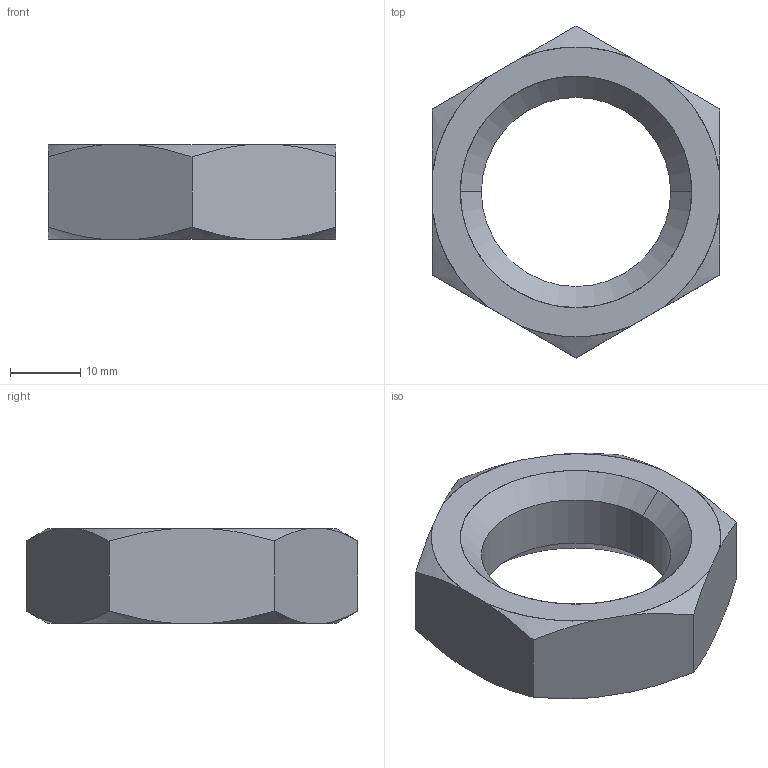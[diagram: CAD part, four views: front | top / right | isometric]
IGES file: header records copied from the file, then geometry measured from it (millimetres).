
Start section: SolidWorks IGES file using analytic representation for surfaces
Global section: file name: C:\Users\liam_\OneDrive\Desktop\Work\Mat Davis Pending 20181125\automotion\P SERIES\P0307.ZP_v2\P0307.ZP_v2_20181215_IGES\P0307.270-ZP.igs; native system: SolidWorks 2017; preprocessor: SolidWorks 2017; author: liam_; date: 181215.155130; units: millimetre
Bounding box: 41 x 47.34 x 13.5 mm (x, y, z)
Surface area: 4435.9 mm2 (no closed solid volume)
Topology: 0 solids, 0 shells, 26 faces, 440 edges, 440 vertices
Faces by surface type: revolution 18, bspline 8
